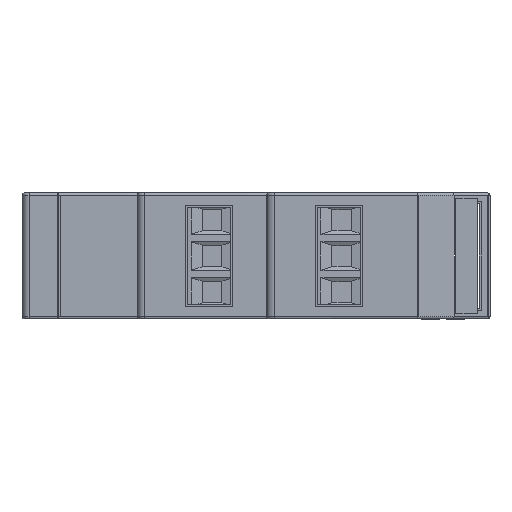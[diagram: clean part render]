
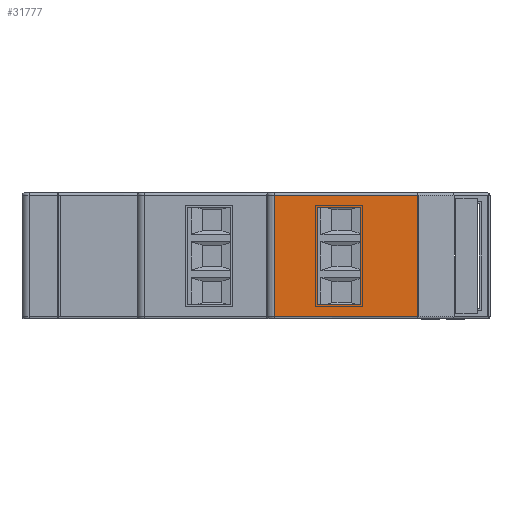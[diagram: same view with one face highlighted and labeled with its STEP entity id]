
A CAD part, left-side view. The second image highlights one B-rep face of the part: STEP entity #31777.
In plain terms, the highlighted planar face has unit normal (-1, 0, 0).
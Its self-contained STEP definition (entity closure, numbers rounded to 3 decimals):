
#484 = LINE ( 'NONE', #513, #27607 ) ;
#510 = LINE ( 'NONE', #525, #27613 ) ;
#513 = CARTESIAN_POINT ( 'NONE',  ( 0., 0., 17.2 ) ) ;
#514 = LINE ( 'NONE', #537, #27616 ) ;
#515 = DIRECTION ( 'NONE',  ( 0., 1., 0. ) ) ;
#518 = LINE ( 'NONE', #519, #27614 ) ;
#519 = CARTESIAN_POINT ( 'NONE',  ( 0., 10., -11.18 ) ) ;
#520 = DIRECTION ( 'NONE',  ( 0., 0., 1. ) ) ;
#525 = CARTESIAN_POINT ( 'NONE',  ( 0., 10., 0.3 ) ) ;
#526 = DIRECTION ( 'NONE',  ( 0., -1., 0. ) ) ;
#530 = LINE ( 'NONE', #531, #27618 ) ;
#531 = CARTESIAN_POINT ( 'NONE',  ( 0., 30., 17.5 ) ) ;
#532 = DIRECTION ( 'NONE',  ( 0., 0., -1. ) ) ;
#537 = CARTESIAN_POINT ( 'NONE',  ( 0., 18., 15.5 ) ) ;
#538 = DIRECTION ( 'NONE',  ( 0., 0., 1. ) ) ;
#984 = EDGE_CURVE ( 'NONE', #18586, #18671, #484, .T. ) ;
#986 = EDGE_CURVE ( 'NONE', #18587, #18586, #518, .T. ) ;
#988 = EDGE_CURVE ( 'NONE', #18691, #18587, #510, .T. ) ;
#990 = EDGE_CURVE ( 'NONE', #18671, #18691, #530, .T. ) ;
#992 = EDGE_CURVE ( 'NONE', #18763, #18887, #514, .T. ) ;
#1482 = VECTOR ( 'NONE', #26101, 1000. ) ;
#1483 = VECTOR ( 'NONE', #26107, 1000. ) ;
#1523 = VECTOR ( 'NONE', #26219, 1000. ) ;
#12344 = FACE_OUTER_BOUND ( 'NONE', #14039, .T. ) ;
#12358 = FACE_BOUND ( 'NONE', #13988, .T. ) ;
#12360 = PLANE ( 'NONE',  #37843 ) ;
#12369 = CARTESIAN_POINT ( 'NONE',  ( 0., 0., 17.5 ) ) ;
#12370 = DIRECTION ( 'NONE',  ( 1., 0., 0. ) ) ;
#12371 = DIRECTION ( 'NONE',  ( 0., 0., -1. ) ) ;
#13988 = EDGE_LOOP ( 'NONE', ( #42751, #42753, #42755, #42906 ) ) ;
#14039 = EDGE_LOOP ( 'NONE', ( #42782, #42908, #42910, #42911 ) ) ;
#18130 = EDGE_CURVE ( 'NONE', #18808, #18763, #26061, .T. ) ;
#18132 = EDGE_CURVE ( 'NONE', #18887, #18596, #26095, .T. ) ;
#18169 = EDGE_CURVE ( 'NONE', #18596, #18808, #26217, .T. ) ;
#18586 = VERTEX_POINT ( 'NONE', #24131 ) ;
#18587 = VERTEX_POINT ( 'NONE', #24133 ) ;
#18596 = VERTEX_POINT ( 'NONE', #24147 ) ;
#18671 = VERTEX_POINT ( 'NONE', #24265 ) ;
#18691 = VERTEX_POINT ( 'NONE', #24297 ) ;
#18763 = VERTEX_POINT ( 'NONE', #24411 ) ;
#18808 = VERTEX_POINT ( 'NONE', #24483 ) ;
#18887 = VERTEX_POINT ( 'NONE', #24609 ) ;
#24131 = CARTESIAN_POINT ( 'NONE',  ( 0., 10., 17.2 ) ) ;
#24133 = CARTESIAN_POINT ( 'NONE',  ( 0., 10., 0.3 ) ) ;
#24147 = CARTESIAN_POINT ( 'NONE',  ( 0., 24., 15.5 ) ) ;
#24265 = CARTESIAN_POINT ( 'NONE',  ( 0., 30., 17.2 ) ) ;
#24297 = CARTESIAN_POINT ( 'NONE',  ( 0., 30., 0.3 ) ) ;
#24411 = CARTESIAN_POINT ( 'NONE',  ( 0., 18., 2. ) ) ;
#24483 = CARTESIAN_POINT ( 'NONE',  ( 0., 24., 2. ) ) ;
#24609 = CARTESIAN_POINT ( 'NONE',  ( 0., 18., 15.5 ) ) ;
#26061 = LINE ( 'NONE', #26100, #1482 ) ;
#26095 = LINE ( 'NONE', #26106, #1483 ) ;
#26100 = CARTESIAN_POINT ( 'NONE',  ( 0., 18., 2. ) ) ;
#26101 = DIRECTION ( 'NONE',  ( 0., -1., 0. ) ) ;
#26106 = CARTESIAN_POINT ( 'NONE',  ( 0., 18., 15.5 ) ) ;
#26107 = DIRECTION ( 'NONE',  ( 0., 1., 0. ) ) ;
#26217 = LINE ( 'NONE', #26218, #1523 ) ;
#26218 = CARTESIAN_POINT ( 'NONE',  ( 0., 24., 15.5 ) ) ;
#26219 = DIRECTION ( 'NONE',  ( 0., 0., -1. ) ) ;
#27607 = VECTOR ( 'NONE', #515, 1000. ) ;
#27613 = VECTOR ( 'NONE', #526, 1000. ) ;
#27614 = VECTOR ( 'NONE', #520, 1000. ) ;
#27616 = VECTOR ( 'NONE', #538, 1000. ) ;
#27618 = VECTOR ( 'NONE', #532, 1000. ) ;
#31777 = ADVANCED_FACE ( 'NONE', ( #12358, #12344 ), #12360, .F. ) ;
#37843 = AXIS2_PLACEMENT_3D ( 'NONE', #12369, #12370, #12371 ) ;
#42751 = ORIENTED_EDGE ( 'NONE', *, *, #18169, .F. ) ;
#42753 = ORIENTED_EDGE ( 'NONE', *, *, #18132, .F. ) ;
#42755 = ORIENTED_EDGE ( 'NONE', *, *, #992, .F. ) ;
#42782 = ORIENTED_EDGE ( 'NONE', *, *, #990, .T. ) ;
#42906 = ORIENTED_EDGE ( 'NONE', *, *, #18130, .F. ) ;
#42908 = ORIENTED_EDGE ( 'NONE', *, *, #988, .T. ) ;
#42910 = ORIENTED_EDGE ( 'NONE', *, *, #986, .T. ) ;
#42911 = ORIENTED_EDGE ( 'NONE', *, *, #984, .T. ) ;
